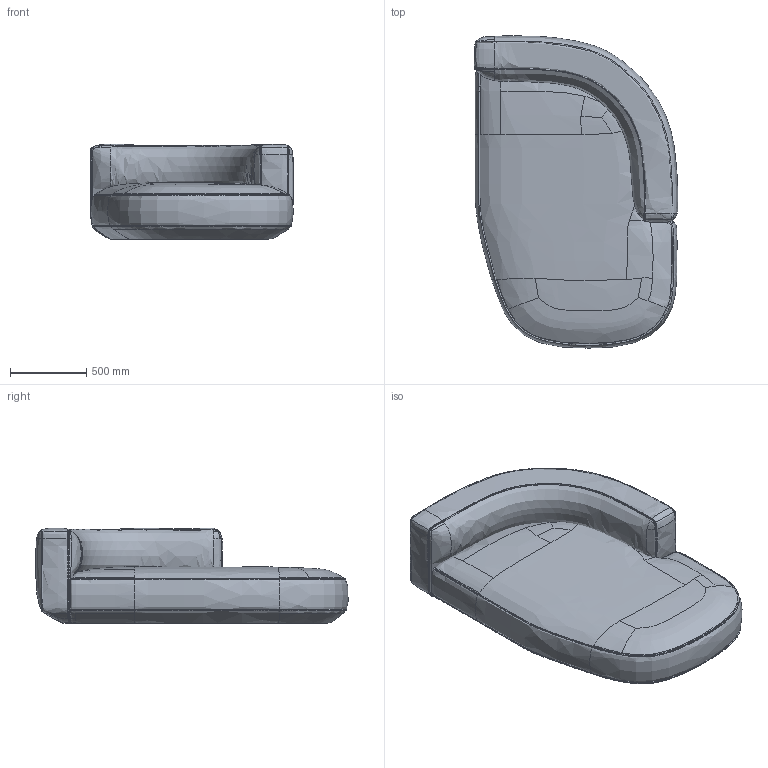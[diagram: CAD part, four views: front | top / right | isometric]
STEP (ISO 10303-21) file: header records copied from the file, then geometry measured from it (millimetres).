
FILE_DESCRIPTION(/* description */ (''),/* implementation_level */ '2;1');
FILE_NAME(/* name */ 'ps+a_zanotta_pianoalto3D_14012025',/* time_stamp */ '2026-01-14T10:57:40+01:00',/* author */ (''),/* organization */ (''),/* preprocessor_version */ 'ST-DEVELOPER v19.2',/* originating_system */ 'Rhino 8.26',/* authorisation */ '');
FILE_SCHEMA (('CONFIG_CONTROL_DESIGN'));
Length unit declared in the file: millimetre
Products named in the file (1): Document
Bounding box: 1340.5 x 2052.73 x 630.67 mm (x, y, z)
Volume: 963536871.3 mm3; surface area: 9136361.2 mm2
Topology: 6 solids, 6 shells, 200 faces, 476 edges, 280 vertices
Faces by surface type: bspline 139, plane 55, cylinder 6
Entity records: 41563 total; most frequent: CARTESIAN_POINT 38237, ORIENTED_EDGE 944, EDGE_CURVE 472, B_SPLINE_CURVE_WITH_KNOTS 344, VERTEX_POINT 276, ADVANCED_FACE 200, FACE_OUTER_BOUND 200, EDGE_LOOP 200
